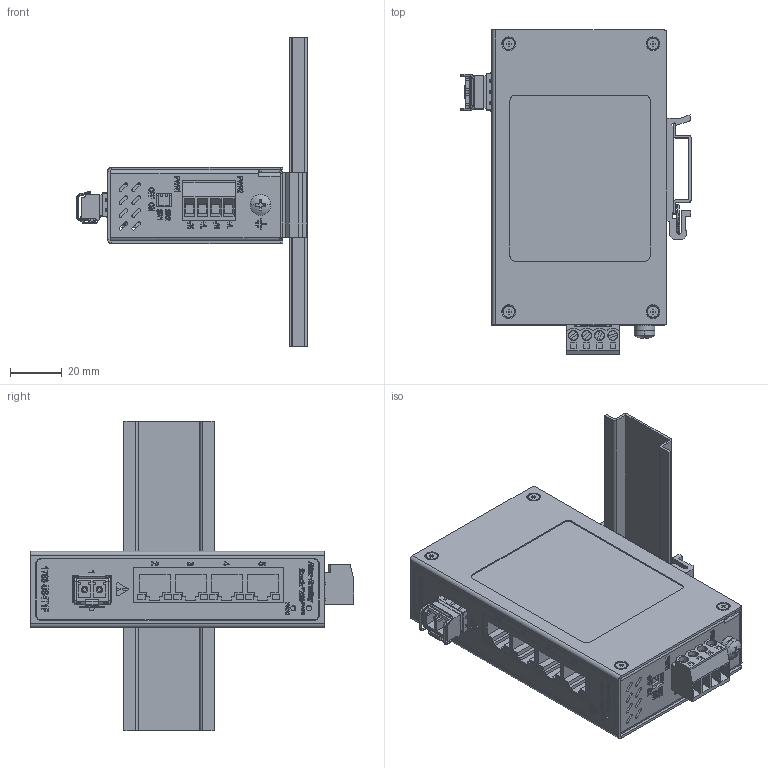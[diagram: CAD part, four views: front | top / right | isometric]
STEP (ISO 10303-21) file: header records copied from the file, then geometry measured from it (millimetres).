
FILE_DESCRIPTION((''),'2;1');
FILE_NAME('1783-US4T1F_ASM','2017-06-30T',('lixiulong'),(''),'PRO/ENGINEER BY PARAMETRIC TECHNOLOGY CORPORATION, 2009360','PRO/ENGINEER BY PARAMETRIC TECHNOLOGY CORPORATION, 2009360','');
FILE_SCHEMA(('AUTOMOTIVE_DESIGN_CC2 { 1 2 10303 214 -1 1 5 2 }'));
Length unit declared in the file: millimetre
Products named in the file (104): PRT0135; PRT0136; PRT0137; PRT0138; PRT0139; PRT0140; ASM0018_ASM_ASM_ASM_ASM_ASM_ASM_ASM; PRT0142; ASM0019_ASM_ASM_ASM_ASM_ASM_ASM_ASM; ASM0017_ASM_ASM_ASM_ASM_ASM_ASM_ASM; PRT0143; ASM0016_ASM_ASM_ASM_ASM_A-14070_ASM; ASM0015_ASM_ASM_ASM_ASM_A-33563_ASM; ASM0014_ASM_ASM_ASM_ASM_A-33596_ASM; OPAL5JIUJIEGOU_ASM_ASM_ASM_ASM__ASM; PRT0051; PRT0052; PRT0053; PRT0054; PRT0055; PRT0056; PRT0057; PRT0058; PRT0059; PRT0060; PRT0061; PRT0062; PRT0063; PRT0064; PRT0065; PRT0066; PRT0067; PRT0068; PRT0069; PRT0070; PRT0071; PRT0072; PRT0073; BREP_24; BREP_25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
Assembly tree (111 placements, depth 16):
  1783-US4T1F_ASM
    1783-US4T1F_ASM_ASM
      1783-US4T1F_ASM_ASM_ASM
        1783-US4T1F_ASM_ASM_ASM_ASM
          1783-US4T1H_ASM_ASM_ASM_ASM_ASM
            RA-OPAL5_ASM_ASM_ASM_ASM_ASM_ASM
              RA-OPAL5_ASM_ASM_ASM_ASM_-62061_ASM
                RA-OPAL5_ASM_ASM_ASM_ASM_-62029_ASM
                  ASM0014_ASM_ASM_ASM_ASM_ASM_ASM_ASM
                25X5  x8
              102990201-1-1SFP-PUL_1
            1783-US4T1F_ASM_ASM_ASM_ASM_ASM
              1_A_ASM_ASM_ASM_ASM_ASM
                BREP_1
                BREP_2
                BREP_3
                BREP_4
                BREP_5
                BREP_6
                BREP_7
                BREP_8
                BREP_9
                BREP_10
                BREP_11
                BREP_12
                BREP_13
                BREP_14
                BREP_15
                BREP_16
                BREP_17
                BREP_18
                BREP_19
                BREP_20
                BREP_21
                BREP_22
                BREP_23
                PRT0077
          GUANGMOKUAIZH_ASM_1_ASM_ASM_ASM
            GUANGMOKUAI1_2_AF0
            GUANGKPEIJIAN1_2
            GUANGKKAKOU_2
            GUANGKOUPEIJIAN2_2
            GUANGKOUBAOMIAN_2_AF0
      M3-6LUODING_1  x2
Bounding box: 89.56 x 125.75 x 120 mm (x, y, z)
Volume: 79436.2 mm3; surface area: 129403 mm2
Topology: 88 solids, 88 shells, 3193 faces, 8629 edges, 5704 vertices
Faces by surface type: plane 1908, cylinder 751, extrusion 310, cone 100, bspline 68, torus 46, revolution 8, sphere 2
Entity records: 108773 total; most frequent: CARTESIAN_POINT 27444, ORIENTED_EDGE 15512, DIRECTION 14651, EDGE_CURVE 7756, VECTOR 5781, LINE 5471, VERTEX_POINT 5133, AXIS2_PLACEMENT_3D 4431
